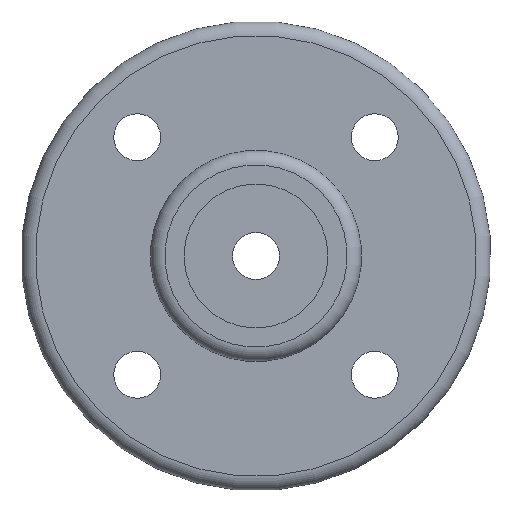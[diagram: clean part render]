
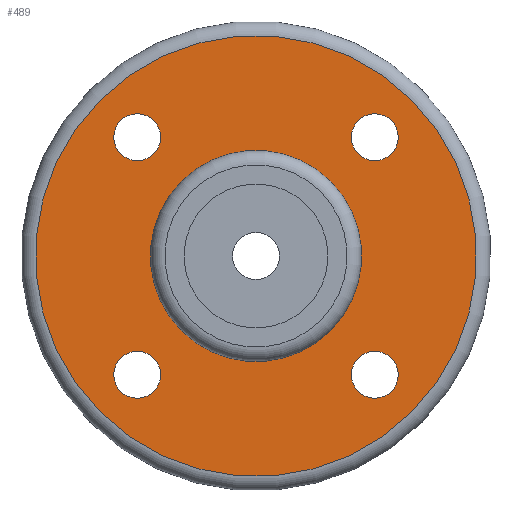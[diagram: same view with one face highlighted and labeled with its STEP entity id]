
A CAD part, front view. The second image highlights one B-rep face of the part: STEP entity #489.
In plain terms, the highlighted planar face has unit normal (0, -1, 0).
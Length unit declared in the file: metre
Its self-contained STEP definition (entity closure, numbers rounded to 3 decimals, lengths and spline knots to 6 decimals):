
#89=PLANE('',#541);
#120=ORIENTED_EDGE('',*,*,#237,.T.);
#121=ORIENTED_EDGE('',*,*,#238,.F.);
#122=ORIENTED_EDGE('',*,*,#239,.F.);
#123=ORIENTED_EDGE('',*,*,#240,.F.);
#124=ORIENTED_EDGE('',*,*,#241,.F.);
#125=ORIENTED_EDGE('',*,*,#242,.F.);
#237=EDGE_CURVE('',#296,#296,#337,.T.);
#238=EDGE_CURVE('',#297,#297,#338,.T.);
#239=EDGE_CURVE('',#298,#298,#339,.T.);
#240=EDGE_CURVE('',#299,#299,#340,.T.);
#241=EDGE_CURVE('',#300,#300,#341,.T.);
#242=EDGE_CURVE('',#301,#301,#342,.T.);
#296=VERTEX_POINT('',#764);
#297=VERTEX_POINT('',#766);
#298=VERTEX_POINT('',#768);
#299=VERTEX_POINT('',#770);
#300=VERTEX_POINT('',#772);
#301=VERTEX_POINT('',#774);
#337=CIRCLE('',#542,0.009189);
#338=CIRCLE('',#543,0.0044);
#339=CIRCLE('',#544,0.000979);
#340=CIRCLE('',#545,0.000979);
#341=CIRCLE('',#546,0.000979);
#342=CIRCLE('',#547,0.000979);
#362=EDGE_LOOP('',(#120));
#363=EDGE_LOOP('',(#121));
#364=EDGE_LOOP('',(#122));
#365=EDGE_LOOP('',(#123));
#366=EDGE_LOOP('',(#124));
#367=EDGE_LOOP('',(#125));
#424=FACE_BOUND('',#362,.T.);
#425=FACE_BOUND('',#363,.T.);
#426=FACE_BOUND('',#364,.T.);
#427=FACE_BOUND('',#365,.T.);
#428=FACE_BOUND('',#366,.T.);
#429=FACE_BOUND('',#367,.T.);
#489=ADVANCED_FACE('',(#424,#425,#426,#427,#428,#429),#89,.T.);
#541=AXIS2_PLACEMENT_3D('',#762,#614,#615);
#542=AXIS2_PLACEMENT_3D('',#763,#616,#617);
#543=AXIS2_PLACEMENT_3D('',#765,#618,#619);
#544=AXIS2_PLACEMENT_3D('',#767,#620,#621);
#545=AXIS2_PLACEMENT_3D('',#769,#622,#623);
#546=AXIS2_PLACEMENT_3D('',#771,#624,#625);
#547=AXIS2_PLACEMENT_3D('',#773,#626,#627);
#614=DIRECTION('',(0.,-1.,0.));
#615=DIRECTION('',(-0.707,0.,-0.707));
#616=DIRECTION('',(0.,-1.,0.));
#617=DIRECTION('',(-0.707,0.,-0.707));
#618=DIRECTION('',(0.,-1.,0.));
#619=DIRECTION('',(-0.707,0.,-0.707));
#620=DIRECTION('',(0.,-1.,0.));
#621=DIRECTION('',(-0.707,0.,-0.707));
#622=DIRECTION('',(0.,-1.,0.));
#623=DIRECTION('',(-0.707,0.,-0.707));
#624=DIRECTION('',(0.,-1.,0.));
#625=DIRECTION('',(-0.707,0.,-0.707));
#626=DIRECTION('',(0.,-1.,0.));
#627=DIRECTION('',(-0.707,0.,-0.707));
#762=CARTESIAN_POINT('',(-0.00005,0.000405,-0.00006));
#763=CARTESIAN_POINT('',(-0.00005,0.000405,-0.00006));
#764=CARTESIAN_POINT('',(-0.006547,0.000405,-0.006557));
#765=CARTESIAN_POINT('',(-0.00005,0.000405,-0.00006));
#766=CARTESIAN_POINT('',(-0.003161,0.000405,-0.003171));
#767=CARTESIAN_POINT('',(-0.005,0.000405,-0.00501));
#768=CARTESIAN_POINT('',(-0.005692,0.000405,-0.005702));
#769=CARTESIAN_POINT('',(0.0049,0.000405,0.00489));
#770=CARTESIAN_POINT('',(0.004208,0.000405,0.004198));
#771=CARTESIAN_POINT('',(0.0049,0.000405,-0.00501));
#772=CARTESIAN_POINT('',(0.004208,0.000405,-0.005702));
#773=CARTESIAN_POINT('',(-0.005,0.000405,0.00489));
#774=CARTESIAN_POINT('',(-0.005692,0.000405,0.004198));
